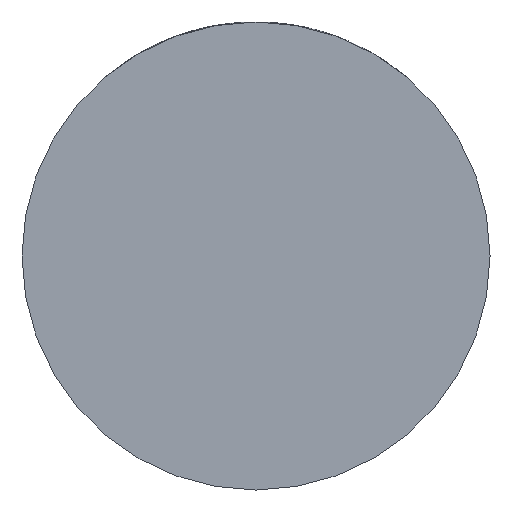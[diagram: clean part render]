
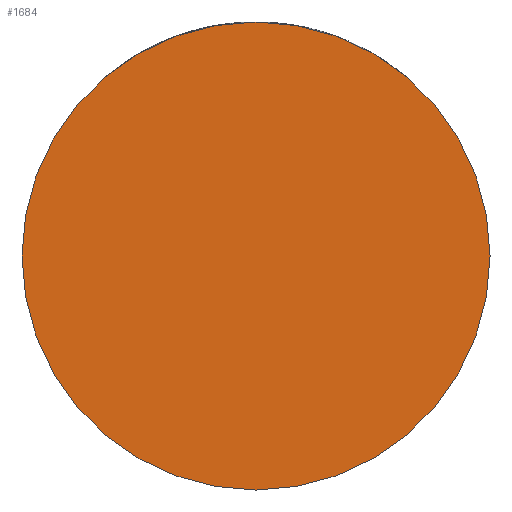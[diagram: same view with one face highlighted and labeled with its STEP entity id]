
A CAD part, front view. The second image highlights one B-rep face of the part: STEP entity #1684.
In plain terms, the highlighted planar face has unit normal (0, -1, 0).
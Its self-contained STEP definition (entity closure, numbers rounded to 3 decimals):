
#257 = AXIS2_PLACEMENT_3D ( 'NONE', #837, #2557, #2899 ) ;
#553 = DIRECTION ( 'NONE',  ( 0., -1., 0. ) ) ;
#837 = CARTESIAN_POINT ( 'NONE',  ( 0., -28., 0. ) ) ;
#942 = ORIENTED_EDGE ( 'NONE', *, *, #1307, .T. ) ;
#1000 = DIRECTION ( 'NONE',  ( 1., 0., 0. ) ) ;
#1307 = EDGE_CURVE ( 'NONE', #1859, #2529, #4406, .T. ) ;
#1407 = ORIENTED_EDGE ( 'NONE', *, *, #1774, .T. ) ;
#1419 = FACE_OUTER_BOUND ( 'NONE', #2708, .T. ) ;
#1486 = PLANE ( 'NONE',  #257 ) ;
#1667 = CARTESIAN_POINT ( 'NONE',  ( 0., -28., 0. ) ) ;
#1684 = ADVANCED_FACE ( 'NONE', ( #1419 ), #1486, .T. ) ;
#1774 = EDGE_CURVE ( 'NONE', #2529, #1859, #3431, .T. ) ;
#1859 = VERTEX_POINT ( 'NONE', #3023 ) ;
#2529 = VERTEX_POINT ( 'NONE', #3748 ) ;
#2557 = DIRECTION ( 'NONE',  ( 0., -1., 0. ) ) ;
#2708 = EDGE_LOOP ( 'NONE', ( #942, #1407 ) ) ;
#2899 = DIRECTION ( 'NONE',  ( 1., 0., 0. ) ) ;
#2978 = DIRECTION ( 'NONE',  ( 1., 0., 0. ) ) ;
#3023 = CARTESIAN_POINT ( 'NONE',  ( -32., -28., 0. ) ) ;
#3204 = AXIS2_PLACEMENT_3D ( 'NONE', #4036, #553, #2978 ) ;
#3320 = AXIS2_PLACEMENT_3D ( 'NONE', #1667, #4460, #1000 ) ;
#3431 = CIRCLE ( 'NONE', #3204, 32. ) ;
#3748 = CARTESIAN_POINT ( 'NONE',  ( 32., -28., 0. ) ) ;
#4036 = CARTESIAN_POINT ( 'NONE',  ( 0., -28., 0. ) ) ;
#4406 = CIRCLE ( 'NONE', #3320, 32. ) ;
#4460 = DIRECTION ( 'NONE',  ( 0., -1., 0. ) ) ;
